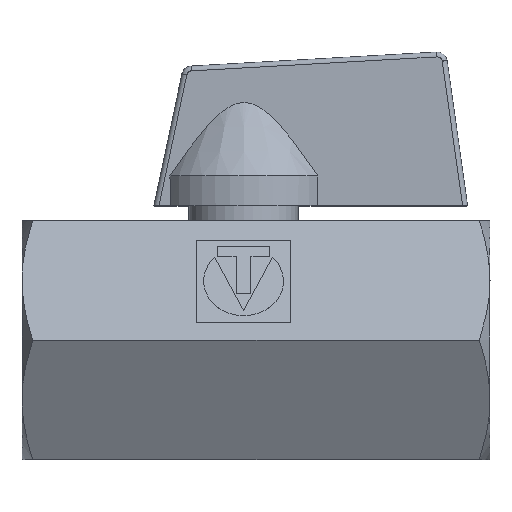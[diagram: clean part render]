
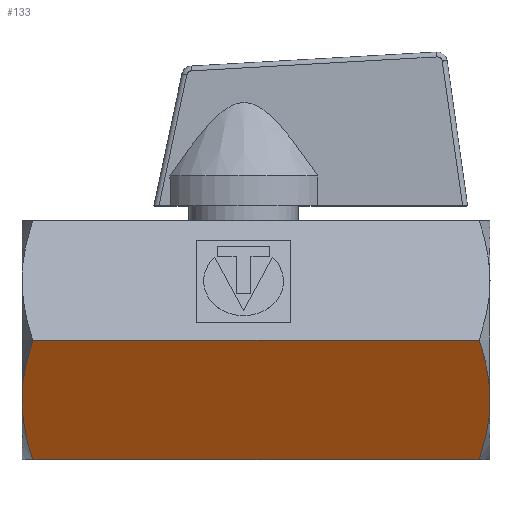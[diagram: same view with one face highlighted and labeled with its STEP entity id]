
A CAD part, top view. The second image highlights one B-rep face of the part: STEP entity #133.
In plain terms, the highlighted planar face has unit normal (0, -0.5, 0.866).
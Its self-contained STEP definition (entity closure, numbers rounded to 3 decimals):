
#133=ADVANCED_FACE('',(#1003),#1005,.T.);
#1003=FACE_BOUND('',#1004,.T.);
#1004=EDGE_LOOP('',(#1607,#1608,#1609,#1610,#1611,#1612));
#1005=PLANE('',#1006);
#1006=AXIS2_PLACEMENT_3D('',#1007,#1008,#1009);
#1007=CARTESIAN_POINT('',(24.75,-12.,6.928));
#1008=DIRECTION('',(0.,-0.5,0.866));
#1009=DIRECTION('',(0.,0.866,0.5));
#1607=ORIENTED_EDGE('',*,*,#1991,.T.);
#1608=ORIENTED_EDGE('',*,*,#1989,.T.);
#1609=ORIENTED_EDGE('',*,*,#1971,.T.);
#1610=ORIENTED_EDGE('',*,*,#1990,.T.);
#1611=ORIENTED_EDGE('',*,*,#1992,.T.);
#1612=ORIENTED_EDGE('',*,*,#1993,.F.);
#1971=EDGE_CURVE('',#2367,#2369,#2371,.T.);
#1989=EDGE_CURVE('',#2380,#2367,#2402,.T.);
#1990=EDGE_CURVE('',#2369,#2395,#2403,.T.);
#1991=EDGE_CURVE('',#2404,#2380,#2405,.T.);
#1992=EDGE_CURVE('',#2395,#2406,#2407,.T.);
#1993=EDGE_CURVE('',#2404,#2406,#2408,.T.);
#2367=VERTEX_POINT('',#4166);
#2369=VERTEX_POINT('',#4194);
#2371=LINE('',#4214,#4215);
#2380=VERTEX_POINT('',#4233);
#2395=VERTEX_POINT('',#4327);
#2402=B_SPLINE_CURVE_WITH_KNOTS('',3,
(#4346,#4347,#4348,#4349,#4350,#4351,#4352,#4353,#4354,#4355,#4356,#4357,#4358,#4359,
#4360,#4361,#4362,#4363,#4364),
.UNSPECIFIED.,.F.,.F.,
(4,1,1,1,1,1,1,1,1,1,1,1,1,1,1,1,4),
(0.,0.072,0.144,0.215,0.286,0.356,
0.423,0.489,0.552,0.615,0.675,
0.734,0.789,0.844,0.897,0.949,
1.),
.UNSPECIFIED.);
#2403=B_SPLINE_CURVE_WITH_KNOTS('',3,
(#4365,#4366,#4367,#4368,#4369,#4370,#4371,#4372,#4373,#4374,#4375,#4376,#4377,#4378,
#4379,#4380,#4381,#4382,#4383,#4384,#4385,#4386,#4387,#4388,#4389,#4390,#4391),
.UNSPECIFIED.,.F.,.F.,
(4,1,1,1,1,1,1,1,1,1,1,1,1,1,1,1,1,1,1,1,1,1,1,1,4),
(0.,0.024,0.048,0.073,0.1,
0.127,0.156,0.186,0.219,0.252,
0.287,0.325,0.366,0.408,0.454,
0.502,0.552,0.603,0.656,0.711,
0.767,0.825,0.883,0.941,1.),
.UNSPECIFIED.);
#2404=VERTEX_POINT('',#4392);
#2405=B_SPLINE_CURVE_WITH_KNOTS('',3,
(#4393,#4394,#4395,#4396,#4397,#4398,#4399,#4400,#4401,#4402,#4403,#4404,#4405,#4406,
#4407,#4408,#4409,#4410,#4411,#4412,#4413,#4414,#4415,#4416,#4417,#4418,#4419),
.UNSPECIFIED.,.F.,.F.,
(4,1,1,1,1,1,1,1,1,1,1,1,1,1,1,1,1,1,1,1,1,1,1,1,4),
(0.,0.024,0.048,0.073,0.1,
0.127,0.156,0.186,0.219,0.252,
0.287,0.325,0.366,0.408,0.454,
0.502,0.552,0.603,0.656,0.711,
0.767,0.825,0.883,0.941,1.),
.UNSPECIFIED.);
#2406=VERTEX_POINT('',#4420);
#2407=B_SPLINE_CURVE_WITH_KNOTS('',3,
(#4421,#4422,#4423,#4424,#4425,#4426,#4427,#4428,#4429,#4430,#4431,#4432,#4433,#4434,
#4435,#4436,#4437,#4438,#4439),
.UNSPECIFIED.,.F.,.F.,
(4,1,1,1,1,1,1,1,1,1,1,1,1,1,1,1,4),
(0.,0.072,0.144,0.215,0.286,0.356,
0.423,0.489,0.552,0.615,0.675,
0.734,0.789,0.844,0.897,0.949,
1.),
.UNSPECIFIED.);
#2408=LINE('',#4440,#4441);
#4166=CARTESIAN_POINT('',(23.678,0.,13.856));
#4194=CARTESIAN_POINT('',(-21.178,0.,13.856));
#4214=CARTESIAN_POINT('',(23.678,0.,13.856));
#4215=VECTOR('',#4216,1.);
#4216=DIRECTION('',(-1.,0.,0.));
#4233=CARTESIAN_POINT('',(24.75,-6.,10.392));
#4327=CARTESIAN_POINT('',(-22.25,-6.,10.392));
#4346=CARTESIAN_POINT('',(24.75,-6.,10.392));
#4347=CARTESIAN_POINT('',(24.75,-5.853,10.477));
#4348=CARTESIAN_POINT('',(24.746,-5.559,10.647));
#4349=CARTESIAN_POINT('',(24.727,-5.121,10.9));
#4350=CARTESIAN_POINT('',(24.697,-4.686,11.151));
#4351=CARTESIAN_POINT('',(24.655,-4.257,11.399));
#4352=CARTESIAN_POINT('',(24.603,-3.838,11.641));
#4353=CARTESIAN_POINT('',(24.543,-3.43,11.876));
#4354=CARTESIAN_POINT('',(24.475,-3.036,12.104));
#4355=CARTESIAN_POINT('',(24.401,-2.653,12.325));
#4356=CARTESIAN_POINT('',(24.321,-2.282,12.539));
#4357=CARTESIAN_POINT('',(24.237,-1.923,12.746));
#4358=CARTESIAN_POINT('',(24.15,-1.578,12.945));
#4359=CARTESIAN_POINT('',(24.06,-1.245,13.138));
#4360=CARTESIAN_POINT('',(23.968,-0.923,13.324));
#4361=CARTESIAN_POINT('',(23.874,-0.608,13.505));
#4362=CARTESIAN_POINT('',(23.778,-0.302,13.682));
#4363=CARTESIAN_POINT('',(23.712,-0.1,13.799));
#4364=CARTESIAN_POINT('',(23.678,0.,13.856));
#4365=CARTESIAN_POINT('',(-21.178,0.,13.856));
#4366=CARTESIAN_POINT('',(-21.194,-0.046,13.83));
#4367=CARTESIAN_POINT('',(-21.225,-0.14,13.775));
#4368=CARTESIAN_POINT('',(-21.271,-0.284,13.693));
#4369=CARTESIAN_POINT('',(-21.319,-0.432,13.607));
#4370=CARTESIAN_POINT('',(-21.367,-0.586,13.518));
#4371=CARTESIAN_POINT('',(-21.416,-0.748,13.424));
#4372=CARTESIAN_POINT('',(-21.466,-0.919,13.326));
#4373=CARTESIAN_POINT('',(-21.519,-1.099,13.222));
#4374=CARTESIAN_POINT('',(-21.572,-1.288,13.113));
#4375=CARTESIAN_POINT('',(-21.626,-1.488,12.997));
#4376=CARTESIAN_POINT('',(-21.68,-1.699,12.876));
#4377=CARTESIAN_POINT('',(-21.737,-1.926,12.745));
#4378=CARTESIAN_POINT('',(-21.794,-2.166,12.606));
#4379=CARTESIAN_POINT('',(-21.852,-2.424,12.457));
#4380=CARTESIAN_POINT('',(-21.909,-2.695,12.301));
#4381=CARTESIAN_POINT('',(-21.965,-2.982,12.135));
#4382=CARTESIAN_POINT('',(-22.018,-3.281,11.962));
#4383=CARTESIAN_POINT('',(-22.067,-3.592,11.783));
#4384=CARTESIAN_POINT('',(-22.113,-3.912,11.598));
#4385=CARTESIAN_POINT('',(-22.153,-4.244,11.406));
#4386=CARTESIAN_POINT('',(-22.187,-4.584,11.21));
#4387=CARTESIAN_POINT('',(-22.215,-4.933,11.008));
#4388=CARTESIAN_POINT('',(-22.235,-5.286,10.805));
#4389=CARTESIAN_POINT('',(-22.247,-5.642,10.599));
#4390=CARTESIAN_POINT('',(-22.25,-5.881,10.461));
#4391=CARTESIAN_POINT('',(-22.25,-6.,10.392));
#4392=CARTESIAN_POINT('',(23.678,-12.,6.928));
#4393=CARTESIAN_POINT('',(23.678,-12.,6.928));
#4394=CARTESIAN_POINT('',(23.694,-11.954,6.955));
#4395=CARTESIAN_POINT('',(23.725,-11.86,7.009));
#4396=CARTESIAN_POINT('',(23.771,-11.716,7.092));
#4397=CARTESIAN_POINT('',(23.819,-11.568,7.178));
#4398=CARTESIAN_POINT('',(23.867,-11.414,7.267));
#4399=CARTESIAN_POINT('',(23.916,-11.252,7.36));
#4400=CARTESIAN_POINT('',(23.966,-11.081,7.459));
#4401=CARTESIAN_POINT('',(24.019,-10.901,7.563));
#4402=CARTESIAN_POINT('',(24.072,-10.712,7.672));
#4403=CARTESIAN_POINT('',(24.126,-10.512,7.787));
#4404=CARTESIAN_POINT('',(24.18,-10.301,7.909));
#4405=CARTESIAN_POINT('',(24.237,-10.074,8.04));
#4406=CARTESIAN_POINT('',(24.294,-9.834,8.179));
#4407=CARTESIAN_POINT('',(24.352,-9.576,8.327));
#4408=CARTESIAN_POINT('',(24.409,-9.305,8.484));
#4409=CARTESIAN_POINT('',(24.465,-9.018,8.65));
#4410=CARTESIAN_POINT('',(24.518,-8.719,8.823));
#4411=CARTESIAN_POINT('',(24.567,-8.408,9.002));
#4412=CARTESIAN_POINT('',(24.613,-8.088,9.187));
#4413=CARTESIAN_POINT('',(24.653,-7.756,9.378));
#4414=CARTESIAN_POINT('',(24.687,-7.416,9.575));
#4415=CARTESIAN_POINT('',(24.715,-7.067,9.776));
#4416=CARTESIAN_POINT('',(24.735,-6.714,9.98));
#4417=CARTESIAN_POINT('',(24.747,-6.358,10.186));
#4418=CARTESIAN_POINT('',(24.75,-6.119,10.323));
#4419=CARTESIAN_POINT('',(24.75,-6.,10.392));
#4420=CARTESIAN_POINT('',(-21.178,-12.,6.928));
#4421=CARTESIAN_POINT('',(-22.25,-6.,10.392));
#4422=CARTESIAN_POINT('',(-22.25,-6.147,10.307));
#4423=CARTESIAN_POINT('',(-22.246,-6.441,10.138));
#4424=CARTESIAN_POINT('',(-22.227,-6.879,9.885));
#4425=CARTESIAN_POINT('',(-22.197,-7.314,9.634));
#4426=CARTESIAN_POINT('',(-22.155,-7.743,9.386));
#4427=CARTESIAN_POINT('',(-22.103,-8.162,9.144));
#4428=CARTESIAN_POINT('',(-22.043,-8.57,8.908));
#4429=CARTESIAN_POINT('',(-21.975,-8.964,8.681));
#4430=CARTESIAN_POINT('',(-21.901,-9.347,8.46));
#4431=CARTESIAN_POINT('',(-21.821,-9.718,8.246));
#4432=CARTESIAN_POINT('',(-21.737,-10.077,8.039));
#4433=CARTESIAN_POINT('',(-21.65,-10.422,7.84));
#4434=CARTESIAN_POINT('',(-21.56,-10.755,7.647));
#4435=CARTESIAN_POINT('',(-21.468,-11.077,7.461));
#4436=CARTESIAN_POINT('',(-21.374,-11.392,7.28));
#4437=CARTESIAN_POINT('',(-21.278,-11.698,7.103));
#4438=CARTESIAN_POINT('',(-21.212,-11.9,6.986));
#4439=CARTESIAN_POINT('',(-21.178,-12.,6.928));
#4440=CARTESIAN_POINT('',(23.678,-12.,6.928));
#4441=VECTOR('',#4442,1.);
#4442=DIRECTION('',(-1.,0.,0.));
